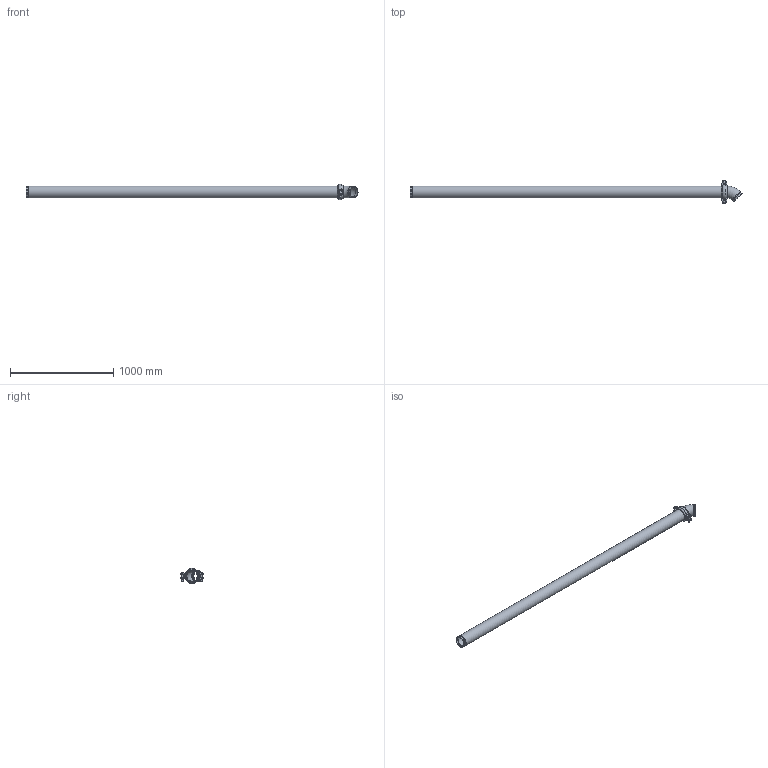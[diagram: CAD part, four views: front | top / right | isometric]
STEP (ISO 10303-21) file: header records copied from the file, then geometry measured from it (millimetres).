
FILE_DESCRIPTION(/* description */ ('VIC LONG RUN FITTING No R14 (OGS)','CAx-IF Rec.Pracs.---Representation and Presentation of Product Manufacturing Information (PMI)---4.0---2014-10-13'),/* implementation_level */ '2;1');
FILE_NAME(/* name */ 'C:\Users\Vjadhav\AppData\Roaming\Autodesk\ApplicationPlugins\Back Up\Victaulic_IPS_Long Run Fittings_No R14 (OGS)\Victaulic_IPS_Long Run Fittings_No R14 (OGS)_4 (100).stp',/* time_stamp */ '2020-10-13T18:28:41+06:00',/* author */ ('Vjadhav'),/* organization */ ('Victaulic'),/* preprocessor_version */ 'ST-DEVELOPER v17.2',/* originating_system */ 'Autodesk Inventor 2019',/* authorisation */ '');
FILE_SCHEMA (('AP242_MANAGED_MODEL_BASED_3D_ENGINEERING_MIM_LF { 1 0 10303 442 1 1 4 }'));
Length unit declared in the file: inch
Products named in the file (4): R14-04.0; 011-04.0; 107N-04.0; Pipe_R13-04.0
Assembly tree (3 placements, depth 2):
  R14-04.0
    011-04.0
    107N-04.0
    Pipe_R13-04.0
Bounding box: 3222.3 x 222.25 x 148.75 mm (x, y, z)
Volume: 6939560.1 mm3; surface area: 2266369.2 mm2
Topology: 3 solids, 3 shells, 149 faces, 387 edges, 260 vertices
Faces by surface type: plane 62, cylinder 57, bspline 16, torus 8, cone 4, sphere 2
Full cylindrical faces by diameter (mm): 12.7 x4, 22.225 x2, 101.6 x1, 102.26 x3, 110.084 x4, 114.3 x7
Entity records: 5560 total; most frequent: CARTESIAN_POINT 1479, DIRECTION 825, ORIENTED_EDGE 774, EDGE_CURVE 387, AXIS2_PLACEMENT_3D 326, VERTEX_POINT 260, EDGE_LOOP 175, LINE 173
